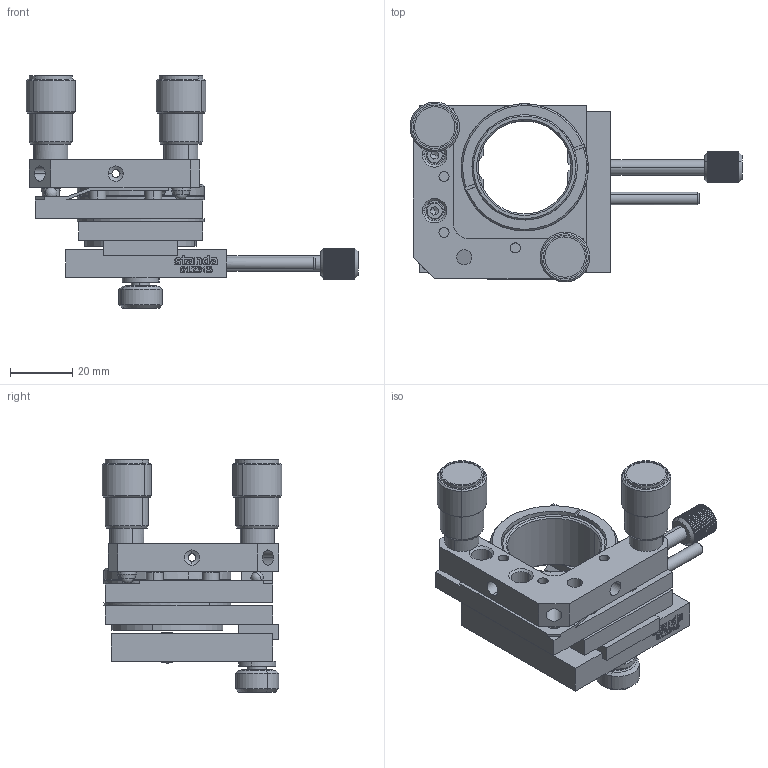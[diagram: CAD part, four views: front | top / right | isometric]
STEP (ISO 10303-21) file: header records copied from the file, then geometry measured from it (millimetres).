
FILE_DESCRIPTION((''),'2;1');
FILE_NAME('5OM38-20.stp','2020-09-23T09:58:47',(''),(''),'Mechanical Desktop 2011','Mechanical Desktop 2011',', , ');
FILE_SCHEMA(('CONFIG_CONTROL_DESIGN'));
Length unit declared in the file: millimetre
Products named in the file (1): Product
Bounding box: 107.07 x 57.95 x 74.85 mm (x, y, z)
Volume: 61059.8 mm3; surface area: 32447 mm2
Topology: 2 solids, 11 shells, 1047 faces, 2687 edges, 1682 vertices
Faces by surface type: plane 636, bspline 202, cylinder 117, cone 70, torus 12, sphere 10
Entity records: 34052 total; most frequent: CARTESIAN_POINT 9249, ORIENTED_EDGE 5326, DIRECTION 4869, EDGE_CURVE 2663, VERTEX_POINT 1682, AXIS2_PLACEMENT_3D 1658, VECTOR 1553, LINE 1553
